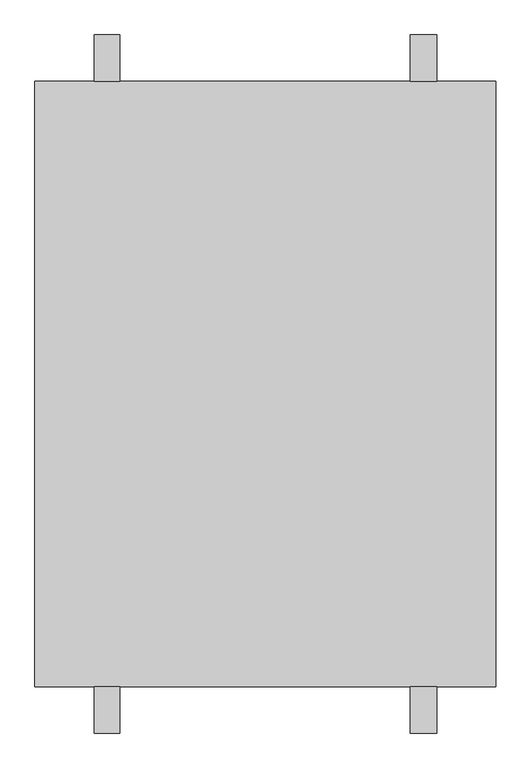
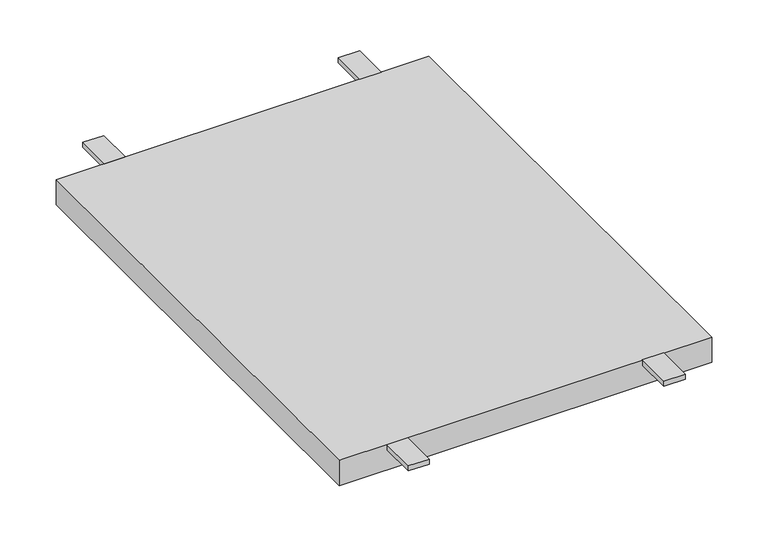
"""IFC4 building model written with IfcOpenShell, lengths in millimetres: proxy geometry, MILLS_TOEC_PLANCHER_TRAPPE_S : Trappe 1.0m."""

from ifc_helpers import new_model, si_unit, frame, origin, origin_with_axes, place, context, project, spatial, polyline, outline, extrude, source, transform, mapped, element, save


def specialty_equipment_3c7041e7(model_context):
    return source(origin(), model_context, "Body", "SweptSolid", [
        extrude(outline(polyline([(-1260.0, 1030.0), (-1220.8749488, 1030.0), (-1220.8749488, 960.0), (-1260.0, 960.0), (-1260.0, 1030.0)])), origin_with_axes(), (0.0, 0.0, 1.0), 10.0),
        extrude(outline(polyline([(-740.0, 1030.0), (-740.0, 960.0), (-780.0, 960.0), (-780.0, 1030.0), (-740.0, 1030.0)])), origin_with_axes(), (0.0, 0.0, 1.0), 10.0),
        extrude(outline(polyline([(-1260.0, -30.0), (-1260.0, 40.0), (-1220.8749488, 40.0), (-1220.8749488, -30.0), (-1260.0, -30.0)])), origin_with_axes(), (0.0, 0.0, 1.0), 10.0),
        extrude(outline(polyline([(-740.0, -30.0), (-780.0, -30.0), (-780.0, 40.0), (-740.0, 40.0), (-740.0, -30.0)])), origin_with_axes(), (0.0, 0.0, 1.0), 10.0),
        extrude(outline(polyline([(-650.0, 960.0), (-650.0, 40.0), (-1350.0, 40.0), (-1350.0, 960.0), (-650.0, 960.0)])), frame((0.0, 0.0, -40.0), z_axis=(0.0, 0.0, 1.0), x_axis=(1.0, 0.0, 0.0)), (0.0, 0.0, 1.0), 50.0),
    ])


if __name__ == "__main__":
    model = new_model("IFC4")
    model_context = context("Model", 3, world=origin())
    ifc_project = project(units=[si_unit("LENGTHUNIT", "METRE", prefix="MILLI")], contexts=[model_context])
    site = spatial("IfcSite", under=ifc_project)
    building = spatial("IfcBuilding", under=site)
    placement = place(None, origin())
    specialty_equipment_shape = specialty_equipment_3c7041e7(model_context)
    element("IfcBuildingElementProxy", 1, Name="MILLS_TOEC_PLANCHER_TRAPPE_S : Trappe 1.0m", ObjectType="MILLS_TOEC_PLANCHER_TRAPPE_S : Trappe 1.0m", at=placement, inside=building, context=model_context, shape_type="MappedRepresentation", body=[
        mapped(specialty_equipment_shape, transform((0.0, 0.0, 0.0), x_axis=(1.0, 0.0, 0.0), y_axis=(0.0, 1.0, 0.0), z_axis=(0.0, 0.0, 1.0))),
    ])
    save(model, "model.ifc")
